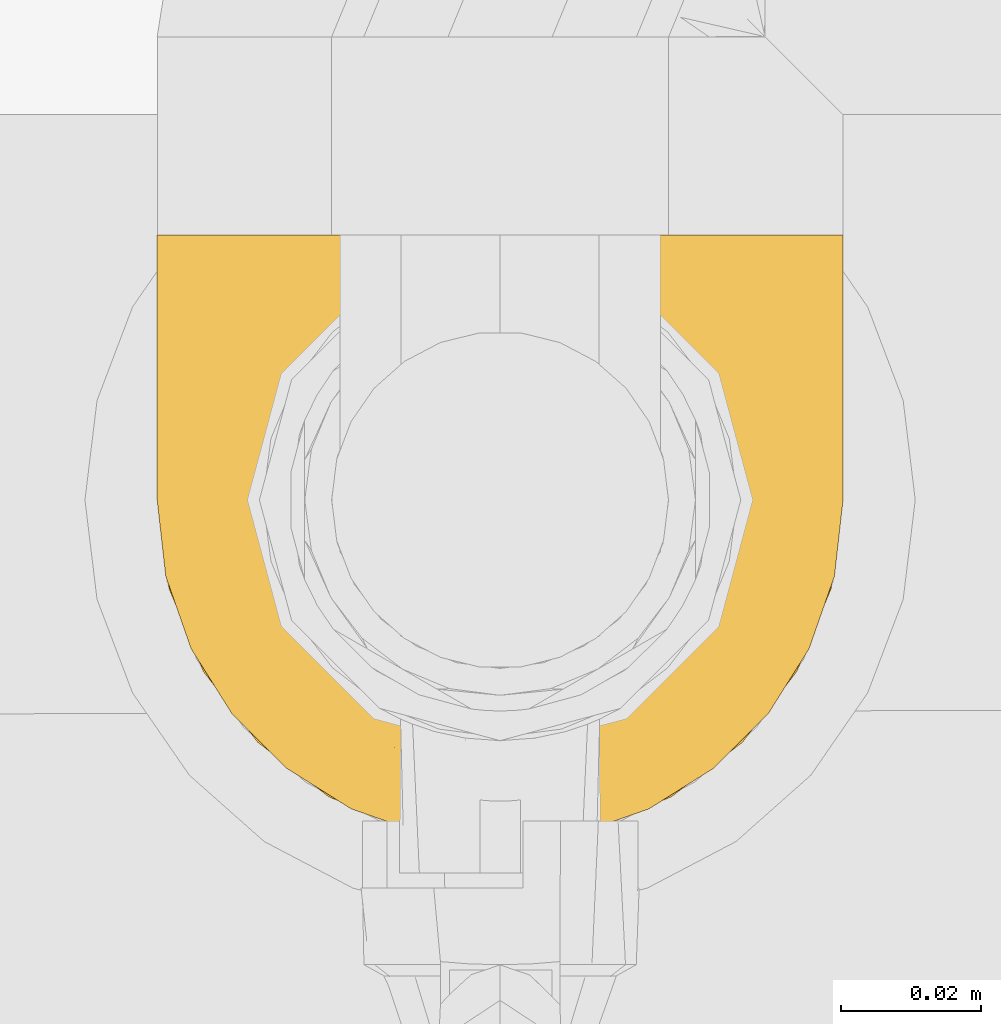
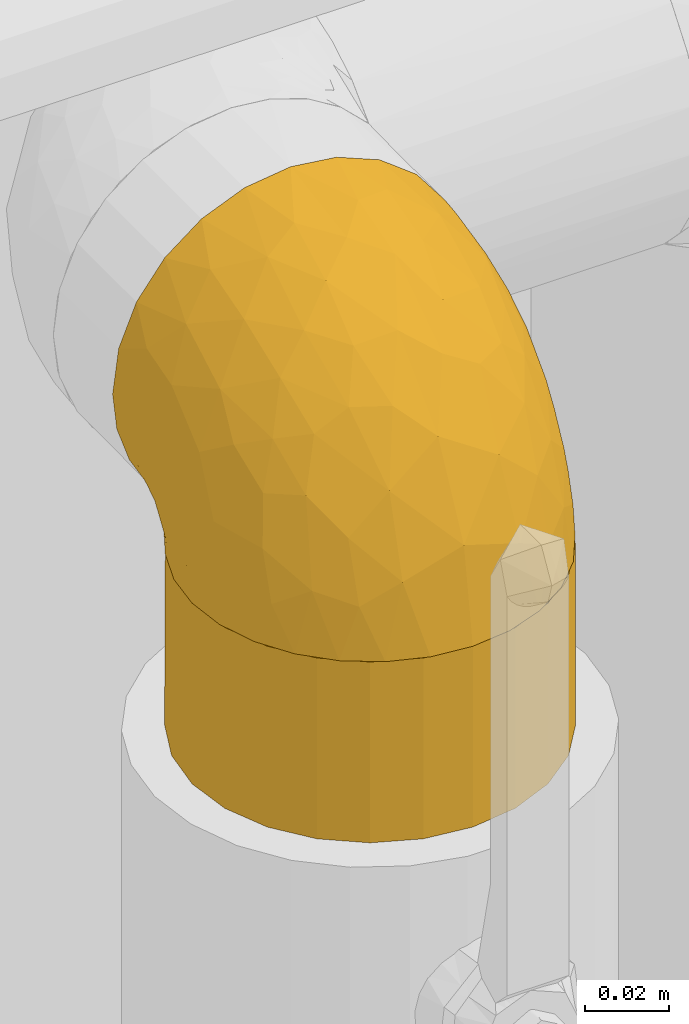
# One storey, part 28 of 94: 2 coverings.
"""IFC2X3 building model written with IfcOpenShell, lengths in millimetres."""

from ifc_helpers import new_model, entity, si_unit, converted_unit, derived_unit, direction, frame, origin, place, context, subcontext, project, spatial, faceted_brep, material, element, save


model = new_model("IFC2X3")

# Units and contexts
model_context = context("Model", 3, precision=0.01, world=origin(), true_north=direction((6.123031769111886e-17, 1.0)))
body_context = subcontext(model_context, "Body", "Model", "MODEL_VIEW")
ifc_project = project(units=[si_unit("LENGTHUNIT", "METRE", prefix="MILLI"), si_unit("AREAUNIT", "SQUARE_METRE"), si_unit("VOLUMEUNIT", "CUBIC_METRE"), converted_unit("PLANEANGLEUNIT", "DEGREE", entity("IfcRatioMeasure", 0.017453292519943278), si_unit("PLANEANGLEUNIT", "RADIAN"), dimensions=[0, 0, 0, 0, 0, 0, 0]), si_unit("MASSUNIT", "GRAM", prefix="KILO"), derived_unit("MASSDENSITYUNIT", [(si_unit("MASSUNIT", "GRAM", prefix="KILO"), 1), (si_unit("LENGTHUNIT", "METRE"), -3)]), derived_unit("IONCONCENTRATIONUNIT", [(si_unit("MASSUNIT", "GRAM", prefix="KILO"), 1), (si_unit("LENGTHUNIT", "METRE"), -3)]), derived_unit("MOMENTOFINERTIAUNIT", [(si_unit("LENGTHUNIT", "METRE"), 4)]), si_unit("TIMEUNIT", "SECOND"), si_unit("FREQUENCYUNIT", "HERTZ"), si_unit("THERMODYNAMICTEMPERATUREUNIT", "DEGREE_CELSIUS"), derived_unit("THERMALTRANSMITTANCEUNIT", [(si_unit("MASSUNIT", "GRAM", prefix="KILO"), 1), (si_unit("THERMODYNAMICTEMPERATUREUNIT", "KELVIN"), -1), (si_unit("TIMEUNIT", "SECOND"), -3)]), derived_unit("THERMALCONDUCTANCEUNIT", [(si_unit("MASSUNIT", "GRAM", prefix="KILO"), 1), (si_unit("THERMODYNAMICTEMPERATUREUNIT", "KELVIN"), -1), (si_unit("TIMEUNIT", "SECOND"), -3), (si_unit("LENGTHUNIT", "METRE"), 1)]), derived_unit("VOLUMETRICFLOWRATEUNIT", [(si_unit("LENGTHUNIT", "METRE"), 3), (si_unit("TIMEUNIT", "SECOND"), -1)]), derived_unit("MASSFLOWRATEUNIT", [(si_unit("MASSUNIT", "GRAM", prefix="KILO"), 1), (si_unit("TIMEUNIT", "SECOND"), -1)]), derived_unit("ROTATIONALFREQUENCYUNIT", [(si_unit("TIMEUNIT", "SECOND"), -1)]), si_unit("ELECTRICCURRENTUNIT", "AMPERE"), si_unit("ELECTRICVOLTAGEUNIT", "VOLT"), si_unit("POWERUNIT", "WATT"), si_unit("FORCEUNIT", "NEWTON", prefix="KILO"), si_unit("ILLUMINANCEUNIT", "LUX"), si_unit("LUMINOUSFLUXUNIT", "LUMEN"), si_unit("LUMINOUSINTENSITYUNIT", "CANDELA"), derived_unit("USERDEFINED", [(si_unit("MASSUNIT", "GRAM", prefix="KILO"), -1), (si_unit("LENGTHUNIT", "METRE"), -2), (si_unit("TIMEUNIT", "SECOND"), 3), (si_unit("LUMINOUSFLUXUNIT", "LUMEN"), 1)]), derived_unit("USERDEFINED", [(si_unit("MASSUNIT", "GRAM", prefix="KILO"), 1), (si_unit("TIMEUNIT", "SECOND"), -3), (si_unit("LENGTHUNIT", "METRE"), 3), (si_unit("ELECTRICCURRENTUNIT", "AMPERE"), -2)]), derived_unit("SOUNDPOWERUNIT", [(si_unit("MASSUNIT", "GRAM", prefix="KILO"), 1), (si_unit("TIMEUNIT", "SECOND"), -3), (si_unit("LENGTHUNIT", "METRE"), 2)]), derived_unit("SOUNDPRESSUREUNIT", [(si_unit("MASSUNIT", "GRAM", prefix="KILO"), 1), (si_unit("LENGTHUNIT", "METRE"), -1), (si_unit("TIMEUNIT", "SECOND"), -2)]), derived_unit("LINEARVELOCITYUNIT", [(si_unit("LENGTHUNIT", "METRE"), 1), (si_unit("TIMEUNIT", "SECOND"), -1)]), si_unit("PRESSUREUNIT", "PASCAL"), derived_unit("USERDEFINED", [(si_unit("MASSUNIT", "GRAM", prefix="KILO"), 1), (si_unit("LENGTHUNIT", "METRE"), -2), (si_unit("TIMEUNIT", "SECOND"), -2)]), derived_unit("LINEARFORCEUNIT", [(si_unit("MASSUNIT", "GRAM", prefix="KILO"), 1), (si_unit("TIMEUNIT", "SECOND"), -2)]), derived_unit("PLANARFORCEUNIT", [(si_unit("MASSUNIT", "GRAM", prefix="KILO"), 1), (si_unit("LENGTHUNIT", "METRE"), -1), (si_unit("TIMEUNIT", "SECOND"), -2)]), derived_unit("SPECIFICHEATCAPACITYUNIT", [(si_unit("THERMODYNAMICTEMPERATUREUNIT", "KELVIN"), -1), (si_unit("LENGTHUNIT", "METRE"), 2), (si_unit("TIMEUNIT", "SECOND"), -2)]), derived_unit("HEATINGVALUEUNIT", [(si_unit("LENGTHUNIT", "METRE"), 2), (si_unit("TIMEUNIT", "SECOND"), -2)]), derived_unit("VAPORPERMEABILITYUNIT", [(si_unit("LENGTHUNIT", "METRE"), -1), (si_unit("TIMEUNIT", "SECOND"), 1)]), derived_unit("DYNAMICVISCOSITYUNIT", [(si_unit("MASSUNIT", "GRAM", prefix="KILO"), 1), (si_unit("TIMEUNIT", "SECOND"), -1), (si_unit("LENGTHUNIT", "METRE"), -1)]), derived_unit("THERMALEXPANSIONCOEFFICIENTUNIT", [(si_unit("THERMODYNAMICTEMPERATUREUNIT", "KELVIN"), -1)]), derived_unit("MODULUSOFELASTICITYUNIT", [(si_unit("MASSUNIT", "GRAM", prefix="KILO"), 1), (si_unit("LENGTHUNIT", "METRE"), -1), (si_unit("TIMEUNIT", "SECOND"), -2)]), derived_unit("ISOTHERMALMOISTURECAPACITYUNIT", [(si_unit("LENGTHUNIT", "METRE"), 3), (si_unit("MASSUNIT", "GRAM", prefix="KILO"), -1)]), derived_unit("MOISTUREDIFFUSIVITYUNIT", [(si_unit("TIMEUNIT", "SECOND"), -1), (si_unit("LENGTHUNIT", "METRE"), 2)])], contexts=[model_context])

# Site, building, storey
site_placement = place(None, origin())
site = spatial("IfcSite", under=ifc_project, at=site_placement, Name="Default", CompositionType="ELEMENT")
building_placement = place(site_placement, origin())
building = spatial("IfcBuilding", under=site, at=building_placement, CompositionType="ELEMENT")
storey_placement = place(building_placement, origin())
storey = spatial("IfcBuildingStorey", under=building, at=storey_placement, Name="Niveau 0", CompositionType="ELEMENT", Elevation=0.0)

# Coverings
ifc_material = material(Name="Isolation - Laine minérale")
covering_1_placement = place(storey_placement, frame((-7222.891137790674, 9871.725273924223, 2210.404727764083)))
element("IfcCovering", 1, at=covering_1_placement, inside=storey, material=ifc_material, Name="Isolation des canalisations:Laine minérale", ObjectType="Isolation des canalisations:Laine minérale", PredefinedType="INSULATION", context=body_context, shape_type="Brep", body=[
    faceted_brep([(95.02415814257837, 29.412134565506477, 1.595272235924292), (89.16631019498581, 20.093252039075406, 1.595272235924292), (81.38263886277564, 12.31254833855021, 1.595272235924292), (72.06354573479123, 6.459227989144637, 1.595272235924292), (61.67593083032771, 2.8261403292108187, 1.595272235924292), (50.74527223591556, 1.5952722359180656, 1.595272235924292), (39.80290363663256, 2.8288129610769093, 1.595272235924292), (29.41213456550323, 6.4663863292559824, 1.595272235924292), (20.093252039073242, 12.324234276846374, 1.595272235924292), (12.31254833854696, 20.10790560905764, 1.595272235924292), (6.459227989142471, 29.42699873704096, 1.595272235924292), (2.826140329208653, 39.81461364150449, 1.595272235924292), (1.5952722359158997, 50.74527223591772, 1.595272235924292), (2.765001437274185, 61.404358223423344, 1.595272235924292), (6.216868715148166, 71.55257335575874, 1.595272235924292), (11.785042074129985, 80.70896636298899, 1.595272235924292), (19.19437336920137, 88.43165280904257, 1.595272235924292), (21.63864226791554, 88.43165280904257, 1.5952722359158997), (23.415694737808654, 88.43165280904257, 1.5952722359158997), (25.192747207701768, 88.43165280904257, 1.5952722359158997), (26.692340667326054, 88.43165280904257, 1.5952722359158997), (28.191934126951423, 88.43165280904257, 1.5952722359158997), (31.191121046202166, 88.43165280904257, 1.5952722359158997), (34.19030796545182, 88.43165280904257, 1.5952722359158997), (37.18949488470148, 88.43165280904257, 1.5952722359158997), (40.18868180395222, 88.43165280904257, 1.5952722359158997), (41.68827526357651, 88.43165280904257, 1.5952722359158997), (43.18786872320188, 88.43165280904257, 1.5952722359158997), (45.63213762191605, 88.43165280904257, 1.5952722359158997), (48.07640652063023, 88.43165280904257, 1.5952722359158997), (50.5206754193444, 88.43165280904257, 1.5952722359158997), (52.96494431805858, 88.43165280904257, 1.5952722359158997), (55.40921321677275, 88.43165280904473, 1.5952722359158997), (57.853482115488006, 88.43165280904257, 1.5952722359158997), (60.2977510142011, 88.43165280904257, 1.5952722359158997), (62.74201991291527, 88.43165280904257, 1.5952722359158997), (65.18628881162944, 88.43165280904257, 1.5952722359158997), (67.6305577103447, 88.43165280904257, 1.5952722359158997), (70.07482660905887, 88.43165280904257, 1.5952722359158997), (72.51909550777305, 88.43165280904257, 1.5952722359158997), (74.96336440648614, 88.43165280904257, 1.5952722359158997), (77.4076333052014, 88.43165280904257, 1.5952722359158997), (79.85190220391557, 88.43165280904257, 1.595272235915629), (82.29617110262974, 88.43165280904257, 1.595272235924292), (89.71827412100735, 80.69235262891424, 1.595272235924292), (95.28368576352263, 71.53113811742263, 1.595272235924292), (98.73008326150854, 61.383900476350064, 1.595272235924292), (99.89527223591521, 50.74527223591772, 1.595272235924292), (98.66173151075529, 39.802903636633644, 1.595272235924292), (11.777056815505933, 88.74527223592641, 9.641963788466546), (6.211862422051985, 88.74527223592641, 18.798688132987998), (2.7632985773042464, 88.74527223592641, 28.94385431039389), (1.5952722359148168, 88.74527223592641, 39.59527223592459), (3.270017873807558, 88.74527223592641, 52.31622830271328), (8.18012363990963, 88.74527223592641, 64.17027223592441), (15.990973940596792, 88.74527223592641, 74.34957053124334), (26.17027223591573, 88.74527223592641, 82.16042083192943), (38.02431616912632, 88.74527223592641, 87.07052659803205), (50.74527223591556, 88.74527223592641, 88.74527223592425), (63.466228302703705, 88.74527223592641, 87.07052659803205), (75.32027223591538, 88.74527223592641, 82.16042083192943), (85.49957053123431, 88.74527223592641, 74.34957053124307), (93.3104208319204, 88.74527223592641, 64.17027223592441), (98.22052659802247, 88.74527223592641, 52.31622830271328), (99.89527223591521, 88.74527223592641, 39.59527223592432), (98.72724589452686, 88.74527223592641, 28.94385431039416), (95.27868204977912, 88.74527223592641, 18.798688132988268), (89.71348765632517, 88.74527223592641, 9.641963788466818), (82.29617110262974, 88.74527223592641, 1.9088916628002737), (79.85190220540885, 88.74527223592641, 1.908891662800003), (78.35230874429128, 88.74527223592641, 1.908891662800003), (76.3803775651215, 88.74527223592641, 1.908891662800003), (74.40844638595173, 88.74527223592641, 1.908891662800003), (72.43651520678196, 88.74527223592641, 1.908891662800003), (70.46458402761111, 88.74527223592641, 1.9088916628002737), (68.49265284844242, 88.74527223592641, 1.908891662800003), (66.52072166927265, 88.74527223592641, 1.908891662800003), (64.54879049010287, 88.74527223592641, 1.908891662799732), (62.5768593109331, 88.74527223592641, 1.9088916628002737), (60.60492813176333, 88.74527223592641, 1.908891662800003), (58.632996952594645, 88.74527223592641, 1.908891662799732), (56.661065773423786, 88.74527223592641, 1.9088916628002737), (54.6891345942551, 88.74527223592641, 1.908891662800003), (52.71720341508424, 88.74527223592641, 1.908891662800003), (50.74527223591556, 88.74527223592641, 1.908891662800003), (48.773341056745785, 88.74527223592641, 1.908891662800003), (46.80140987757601, 88.74527223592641, 1.9088916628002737), (44.82947869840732, 88.74527223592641, 1.9088916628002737), (42.85754751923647, 88.74527223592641, 1.908891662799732), (40.8856163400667, 88.74527223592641, 1.9088916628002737), (38.913685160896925, 88.74527223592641, 1.9088916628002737), (36.94175398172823, 88.74527223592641, 1.9088916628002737), (34.96982280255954, 88.74527223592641, 1.908891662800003), (31.97063588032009, 88.74527223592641, 1.908891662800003), (28.971448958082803, 88.74527223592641, 1.908891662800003), (26.5271800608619, 88.74527223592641, 1.9088916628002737), (24.082911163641, 88.74527223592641, 1.908891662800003), (21.638642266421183, 88.74527223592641, 1.9088916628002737), (19.19437336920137, 88.74527223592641, 1.908891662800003), (53.75333970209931, 88.53090125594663, 1.8241875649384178), (51.832765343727, 88.52210831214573, 1.8156242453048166), (61.47290163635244, 88.52122178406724, 1.8147227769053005), (63.56282540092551, 88.52777998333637, 1.821224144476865), (48.00102702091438, 88.54092532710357, 1.8331787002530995), (77.24999397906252, 88.53506454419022, 1.8280164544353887), (80.69913834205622, 88.49130573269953, 1.7792781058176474), (42.43807145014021, 88.51810292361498, 1.8114926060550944), (22.860776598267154, 88.52350981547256, 1.8170346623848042), (24.70021643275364, 88.52548149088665, 1.8189889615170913), (71.3700895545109, 88.51653277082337, 1.809830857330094), (73.40383885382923, 88.52674320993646, 1.8202215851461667), (44.410002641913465, 88.50469006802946, 1.7964621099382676), (37.92771907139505, 88.52964682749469, 1.8230063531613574), (39.81308540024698, 88.53317608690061, 1.8262968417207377), (35.95578792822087, 88.51585328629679, 1.8091041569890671), (49.75930651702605, 88.52914218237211, 1.8225274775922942), (21.02757498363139, 88.52591800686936, 1.8194169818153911), (55.67510065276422, 88.53664906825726, 1.8294378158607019), (67.50668767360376, 88.53747885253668, 1.83017445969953), (65.61454699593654, 88.53273195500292, 1.8258883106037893), (34.10458092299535, 88.53426299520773, 1.8272900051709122), (57.55217518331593, 88.53370000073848, 1.8267767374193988), (79.10210557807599, 88.52350981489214, 1.8170346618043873), (75.39441218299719, 88.53493173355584, 1.8278964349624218), (82.29617110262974, 88.52350981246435, 1.8170346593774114), (82.29617110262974, 88.4948797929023, 1.747915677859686), (82.29617110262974, 88.46624977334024, 1.67879669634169), (19.19437336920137, 88.52350981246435, 1.8170346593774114), (19.19437336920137, 88.59262879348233, 1.8456646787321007), (19.19437336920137, 88.66174777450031, 1.8742946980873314), (32.212157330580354, 88.5100064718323, 1.8026539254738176), (69.4355922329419, 88.53042484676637, 1.823740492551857), (46.24828797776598, 88.52246762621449, 1.8159875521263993), (59.49061335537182, 88.52470424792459, 1.8182226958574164), (29.41925201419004, 88.50579329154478, 1.7977740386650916), (27.44213716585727, 88.5274414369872, 1.8208977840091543), (82.29617110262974, 88.66174777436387, 1.8742946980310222), (82.29617110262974, 88.59262879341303, 1.8456646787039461), (19.19437336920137, 88.46624977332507, 1.6787966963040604), (19.194373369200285, 88.49487979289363, 1.7479156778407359), (4.210283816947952, 85.22080157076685, 23.495219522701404), (8.744179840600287, 85.93611072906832, 13.747756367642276), (4.210283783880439, 81.07807843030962, 22.409779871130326), (9.955583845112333, 83.13289242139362, 10.562522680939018), (1.5952722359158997, 79.24527223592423, 37.049754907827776), (1.5952722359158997, 81.2889022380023, 37.59734391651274), (1.5952722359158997, 55.83630689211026, 20.59527223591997), (2.93549782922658, 66.39553001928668, 16.020149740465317), (4.213452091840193, 67.94040403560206, 9.261677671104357), (1.5952722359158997, 69.74527223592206, 34.50423757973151), (9.405305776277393, 80.67378389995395, 9.667897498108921), (9.963487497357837, 79.78892094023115, 7.202912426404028), (2.9356418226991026, 74.32109358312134, 23.94474674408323), (4.213452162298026, 66.85470593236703, 5.119390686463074), (8.750654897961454, 76.603363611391, 4.402893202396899), (5.690627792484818, 79.64911936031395, 17.541506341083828), (1.5952722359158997, 52.743200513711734, 9.051642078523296), (1.5952722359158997, 53.29078956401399, 11.095272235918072), (4.482619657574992, 73.61168493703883, 16.7288594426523), (1.5952722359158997, 62.790789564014, 27.549754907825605), (5.766057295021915, 73.87988529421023, 12.071559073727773), (2.6117250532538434, 75.32913676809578, 47.62395095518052), (2.657531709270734, 65.9107418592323, 44.00144112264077), (11.131578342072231, 53.84761415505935, 58.899698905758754), (20.82464790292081, 59.13651173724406, 72.6677148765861), (11.7519547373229, 71.16612245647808, 67.20155656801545), (5.336592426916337, 67.0054527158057, 54.07984229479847), (5.336592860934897, 78.8805128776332, 57.54110754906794), (50.74527223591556, 37.51978749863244, 72.10110329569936), (50.74527223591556, 61.81444117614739, 84.47984763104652), (40.339739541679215, 53.875201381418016, 80.2480135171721), (9.124243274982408, 25.784943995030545, 13.851436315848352), (4.351045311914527, 36.24418276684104, 15.165285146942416), (32.64695426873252, 29.562882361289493, 60.77765845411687), (23.768909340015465, 30.770681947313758, 55.385836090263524), (35.61531809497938, 15.292222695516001, 43.89737524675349), (41.696133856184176, 71.31385843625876, 86.1264811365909), (30.50981773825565, 47.24102741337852, 73.23168363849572), (21.748430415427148, 43.50389303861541, 64.74738573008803), (20.824647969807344, 75.28985257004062, 77.40373146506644), (31.93638275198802, 67.10273039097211, 82.14716981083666), (15.984346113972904, 37.09920094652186, 52.82911549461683), (9.509703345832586, 44.51517687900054, 48.878965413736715), (11.405769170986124, 33.70477633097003, 40.607220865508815), (3.7235321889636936, 44.05169469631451, 28.76995319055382), (9.124242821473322, 30.044081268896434, 27.44844566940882), (15.984347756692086, 18.312338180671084, 19.800365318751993), (50.74527223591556, 5.8606968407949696, 28.52610329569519), (34.50535109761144, 7.04140620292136, 22.71562192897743), (18.535934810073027, 25.61446965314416, 42.31748570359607), (24.588194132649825, 15.886915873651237, 33.6838277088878), (24.588193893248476, 10.600409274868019, 16.806973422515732), (39.07585882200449, 38.50378416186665, 71.0785805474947), (42.346184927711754, 25.345180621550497, 60.332491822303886), (2.5632520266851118, 53.163504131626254, 33.37332146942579), (50.74527223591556, 18.239441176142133, 52.82075697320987), (4.722449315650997, 52.69469876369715, 43.4654296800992), (69.5541610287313, 58.17589226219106, 79.20017463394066), (59.5851078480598, 71.70091272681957, 86.2448880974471), (59.865425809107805, 54.57433327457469, 80.8380701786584), (66.13789702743, 42.49805076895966, 72.52816019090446), (69.55416221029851, 75.06235489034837, 83.8739788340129), (85.49332197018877, 24.5251412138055, 35.798660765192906), (78.98858976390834, 25.786342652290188, 48.02046276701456), (76.88743080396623, 15.878231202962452, 33.68736739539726), (85.49294527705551, 37.08979212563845, 52.83844921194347), (78.28666517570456, 35.71336208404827, 59.755981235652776), (97.13479117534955, 36.23150879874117, 15.170016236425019), (98.95303587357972, 70.53804152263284, 45.55141709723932), (99.89527223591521, 69.74527223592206, 34.50423757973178), (99.89527223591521, 79.24527223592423, 37.049754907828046), (66.97173870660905, 7.0362994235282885, 22.71467774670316), (80.66589652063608, 69.24086116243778, 76.07714087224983), (92.35692696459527, 30.03051209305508, 27.454651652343), (92.35692651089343, 25.770245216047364, 13.854008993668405), (89.73858944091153, 76.87540408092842, 68.47065883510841), (96.15395178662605, 74.00473445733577, 56.4584334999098), (79.62483877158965, 48.41047025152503, 68.08854506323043), (89.7385902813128, 62.62553049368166, 64.29272071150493), (59.508159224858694, 31.220776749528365, 66.01125638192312), (68.8345286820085, 29.560345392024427, 60.7801954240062), (99.01263503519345, 79.82666983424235, 48.01911236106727), (76.887431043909, 10.591274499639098, 16.809109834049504), (65.85652255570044, 15.28724730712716, 43.900853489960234), (85.49294363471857, 18.29950680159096, 19.803681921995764), (97.76388503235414, 44.04987097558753, 28.786726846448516), (99.89527223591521, 55.83630689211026, 20.595272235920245), (98.78930951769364, 54.23536248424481, 35.485066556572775), (99.89527223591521, 62.790789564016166, 27.549754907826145), (99.89527223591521, 52.74320051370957, 9.051642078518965), (99.89527223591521, 53.29078956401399, 11.095272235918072), (91.50386042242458, 48.41211537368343, 53.16291239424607), (96.42683125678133, 64.14304703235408, 52.05308452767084), (93.1499194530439, 40.10640265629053, 41.401037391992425), (99.08337182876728, 62.89073418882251, 40.721221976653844), (86.09107557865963, 47.672778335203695, 60.91677547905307), (96.67816905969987, 55.3895582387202, 45.9406116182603), (97.28026029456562, 81.07807840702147, 22.409778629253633), (95.72662397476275, 78.26566497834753, 16.464254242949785), (98.5546584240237, 74.3207291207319, 23.943292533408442), (97.28026045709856, 85.22080145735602, 23.495218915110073), (92.74636428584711, 85.93611080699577, 13.74775580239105), (91.53641117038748, 83.13257230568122, 10.564867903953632), (90.1127562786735, 82.6819800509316, 7.656624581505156), (97.0051951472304, 73.61706381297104, 16.723481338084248), (91.54965419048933, 79.75777141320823, 7.216517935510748), (97.2842704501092, 67.9184535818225, 9.263185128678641), (97.28427059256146, 66.83334757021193, 5.119593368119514), (92.7514749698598, 76.58449008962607, 4.405878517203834), (98.55441347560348, 66.39770760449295, 16.01862728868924), (95.80583125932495, 72.78382599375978, 10.692146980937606)], [[[0, 1, 2, 3, 4, 5, 6, 7, 8, 9, 10, 11, 12, 13, 14, 15, 16, 17, 18, 19, 20, 21, 22, 23, 24, 25, 26, 27, 28, 29, 30, 31, 32, 33, 34, 35, 36, 37, 38, 39, 40, 41, 42, 43, 44, 45, 46, 47, 48]], [[49, 50, 51, 52, 53, 54, 55, 56, 57, 58, 59, 60, 61, 62, 63, 64, 65, 66, 67, 68, 69, 70, 71, 72, 73, 74, 75, 76, 77, 78, 79, 80, 81, 82, 83, 84, 85, 86, 87, 88, 89, 90, 91, 92, 93, 94, 95, 96, 97, 98]], [[99, 100, 83]], [[101, 102, 35]], [[85, 103, 86]], [[71, 70, 104]], [[105, 69, 68]], [[27, 26, 106]], [[18, 107, 108]], [[109, 73, 110]], [[28, 27, 111]], [[25, 112, 113]], [[108, 96, 95]], [[114, 92, 91]], [[103, 85, 115]], [[96, 107, 97]], [[107, 17, 116]], [[78, 102, 101]], [[99, 117, 32]], [[76, 118, 119]], [[120, 92, 114]], [[112, 90, 113]], [[88, 111, 106]], [[40, 39, 110]], [[107, 96, 108]], [[32, 117, 121]], [[91, 90, 112]], [[37, 119, 118]], [[84, 115, 85]], [[69, 105, 122]], [[71, 123, 72]], [[105, 124, 125, 126, 43]], [[116, 17, 16]], [[122, 70, 69]], [[41, 122, 42]], [[116, 127, 128, 129, 98]], [[110, 123, 40]], [[42, 122, 105]], [[120, 23, 130]], [[24, 114, 112]], [[114, 24, 23]], [[104, 123, 71]], [[91, 112, 114]], [[104, 122, 41]], [[24, 112, 25]], [[110, 72, 123]], [[36, 119, 37]], [[40, 123, 41]], [[74, 73, 109]], [[131, 75, 74]], [[118, 131, 37]], [[109, 110, 39]], [[109, 39, 38]], [[73, 72, 110]], [[123, 104, 41]], [[122, 104, 70]], [[26, 25, 113]], [[113, 89, 106]], [[87, 86, 132]], [[113, 106, 26]], [[76, 75, 118]], [[132, 111, 87]], [[106, 111, 27]], [[132, 28, 111]], [[87, 111, 88]], [[88, 106, 89]], [[113, 90, 89]], [[131, 118, 75]], [[38, 37, 131]], [[119, 36, 102]], [[131, 109, 38]], [[109, 131, 74]], [[78, 77, 102]], [[77, 119, 102]], [[77, 76, 119]], [[121, 80, 133]], [[36, 35, 102]], [[33, 121, 133]], [[79, 78, 101]], [[34, 101, 35]], [[132, 29, 28]], [[80, 79, 133]], [[29, 103, 115]], [[30, 29, 115]], [[86, 103, 132]], [[100, 115, 84]], [[31, 30, 100]], [[115, 100, 30]], [[32, 31, 99]], [[117, 81, 121]], [[100, 84, 83]], [[99, 82, 117]], [[81, 117, 82]], [[33, 32, 121]], [[82, 99, 83]], [[100, 99, 31]], [[34, 33, 133]], [[121, 81, 80]], [[133, 101, 34]], [[101, 133, 79]], [[134, 94, 93]], [[23, 120, 114]], [[132, 103, 29]], [[120, 93, 92]], [[93, 120, 130]], [[97, 107, 116]], [[108, 20, 19, 18]], [[21, 135, 134]], [[20, 135, 21]], [[134, 135, 94]], [[108, 95, 135]], [[108, 135, 20]], [[135, 95, 94]], [[134, 22, 21]], [[130, 22, 134]], [[42, 105, 43]], [[105, 68, 136, 137, 124]], [[97, 116, 98]], [[116, 16, 138, 139, 127]], [[18, 17, 107]], [[93, 130, 134]], [[22, 130, 23]], [[140, 141, 142]], [[143, 129, 128, 127]], [[51, 144, 145, 52]], [[146, 147, 148]], [[142, 149, 144]], [[150, 127, 151]], [[50, 140, 51]], [[142, 152, 149]], [[51, 140, 144]], [[129, 143, 141]], [[14, 13, 153]], [[148, 151, 154]], [[155, 141, 143]], [[151, 138, 154]], [[14, 153, 154]], [[16, 15, 138]], [[13, 12, 156, 157]], [[152, 155, 158]], [[159, 158, 147]], [[157, 148, 153]], [[14, 154, 15]], [[49, 98, 129]], [[49, 129, 141]], [[141, 50, 49]], [[160, 148, 147]], [[146, 148, 157]], [[138, 15, 154]], [[150, 158, 155]], [[151, 127, 139, 138]], [[141, 140, 50]], [[144, 140, 142]], [[157, 153, 13]], [[154, 153, 148]], [[149, 152, 159]], [[160, 147, 158]], [[147, 146, 159]], [[155, 152, 142]], [[159, 152, 158]], [[127, 150, 143]], [[160, 150, 151]], [[150, 160, 158]], [[148, 160, 151]], [[141, 155, 142]], [[155, 143, 150]], [[156, 12, 11]], [[161, 149, 162]], [[163, 164, 165]], [[166, 167, 161]], [[168, 169, 170]], [[54, 165, 55]], [[171, 172, 10]], [[173, 174, 175]], [[57, 176, 58]], [[173, 177, 178]], [[179, 56, 55]], [[54, 167, 165]], [[170, 180, 177]], [[56, 179, 180]], [[167, 54, 53]], [[181, 182, 183]], [[184, 146, 172]], [[172, 185, 184]], [[186, 185, 171]], [[186, 9, 8]], [[172, 146, 157, 156]], [[172, 11, 10]], [[173, 178, 174]], [[6, 187, 188]], [[189, 186, 190]], [[191, 186, 8]], [[175, 190, 188]], [[168, 192, 193]], [[189, 190, 174]], [[56, 180, 57]], [[8, 7, 191]], [[188, 7, 6]], [[6, 5, 187]], [[190, 191, 188]], [[159, 194, 162]], [[175, 187, 195]], [[177, 180, 164]], [[10, 9, 171]], [[176, 180, 170]], [[156, 11, 172]], [[163, 165, 166]], [[179, 165, 164]], [[53, 52, 145]], [[185, 189, 183]], [[184, 196, 194]], [[188, 191, 7]], [[186, 191, 190]], [[186, 171, 9]], [[172, 171, 185]], [[187, 175, 188]], [[193, 175, 195]], [[196, 163, 166]], [[163, 181, 178]], [[162, 166, 161]], [[184, 185, 183]], [[178, 177, 164]], [[177, 192, 170]], [[177, 173, 192]], [[176, 170, 169]], [[58, 176, 169]], [[57, 180, 176]], [[193, 192, 173]], [[168, 170, 192]], [[175, 193, 173]], [[168, 193, 195]], [[163, 178, 164]], [[184, 194, 146]], [[178, 181, 174]], [[189, 174, 181]], [[175, 174, 190]], [[183, 189, 181]], [[186, 189, 185]], [[182, 181, 163]], [[183, 182, 184]], [[163, 196, 182]], [[184, 182, 196]], [[165, 179, 55]], [[180, 179, 164]], [[161, 53, 145]], [[165, 167, 166]], [[53, 161, 167]], [[161, 145, 144, 149]], [[159, 162, 149]], [[196, 166, 162]], [[162, 194, 196]], [[146, 194, 159]], [[197, 198, 199]], [[58, 169, 198]], [[197, 199, 200]], [[198, 197, 201]], [[202, 203, 204]], [[60, 59, 201]], [[205, 206, 203]], [[0, 48, 207]], [[208, 209, 210]], [[187, 4, 211]], [[201, 212, 60]], [[213, 214, 207]], [[61, 215, 62]], [[62, 215, 216]], [[3, 211, 4]], [[217, 218, 212]], [[219, 220, 200]], [[216, 208, 221]], [[3, 2, 222]], [[62, 216, 63]], [[61, 60, 212]], [[211, 3, 222]], [[5, 4, 187]], [[217, 197, 200]], [[203, 223, 204]], [[2, 1, 224]], [[225, 213, 207]], [[204, 222, 224]], [[1, 0, 214]], [[204, 224, 202]], [[207, 226, 225]], [[227, 226, 228]], [[223, 211, 204]], [[214, 224, 1]], [[202, 224, 213]], [[48, 47, 229]], [[207, 229, 230, 226]], [[211, 223, 187]], [[218, 231, 232]], [[48, 229, 207]], [[205, 233, 231]], [[233, 213, 225]], [[217, 212, 197]], [[215, 212, 218]], [[228, 234, 227]], [[233, 205, 202]], [[208, 234, 209]], [[63, 221, 64]], [[235, 205, 231]], [[207, 214, 0]], [[224, 214, 213]], [[224, 222, 2]], [[211, 222, 204]], [[219, 223, 220]], [[187, 223, 195]], [[227, 233, 225]], [[234, 228, 209]], [[231, 233, 236]], [[221, 208, 210]], [[232, 208, 216]], [[64, 221, 210]], [[216, 221, 63]], [[233, 202, 213]], [[203, 202, 205]], [[205, 235, 206]], [[223, 203, 220]], [[200, 206, 217]], [[220, 203, 206]], [[232, 231, 236]], [[235, 218, 217]], [[212, 215, 61]], [[216, 215, 218]], [[218, 232, 216]], [[234, 232, 236]], [[232, 234, 208]], [[234, 236, 227]], [[233, 227, 236]], [[226, 227, 225]], [[198, 201, 59]], [[212, 201, 197]], [[58, 198, 59]], [[198, 169, 199]], [[169, 168, 199]], [[219, 200, 199]], [[219, 199, 168]], [[200, 220, 206]], [[168, 195, 219]], [[223, 219, 195]], [[218, 235, 231]], [[206, 235, 217]], [[65, 64, 210]], [[209, 237, 210]], [[238, 237, 239]], [[66, 240, 241]], [[242, 136, 241]], [[243, 137, 242]], [[243, 244, 245]], [[65, 240, 66]], [[136, 68, 67]], [[136, 67, 241]], [[246, 226, 230]], [[66, 241, 67]], [[210, 237, 240]], [[45, 247, 46]], [[209, 239, 237]], [[246, 247, 248]], [[46, 247, 230]], [[249, 250, 244]], [[239, 228, 244]], [[226, 246, 249]], [[250, 248, 245]], [[44, 43, 126]], [[237, 242, 241]], [[248, 45, 44]], [[44, 126, 248]], [[46, 230, 229, 47]], [[245, 126, 125]], [[126, 245, 248]], [[243, 124, 137]], [[210, 240, 65]], [[241, 240, 237]], [[248, 247, 45]], [[230, 247, 246]], [[226, 249, 228]], [[238, 239, 244]], [[239, 209, 228]], [[250, 249, 246]], [[228, 249, 244]], [[243, 242, 238]], [[136, 242, 137]], [[124, 243, 125]], [[125, 243, 245]], [[243, 238, 244]], [[237, 238, 242]], [[248, 250, 246]], [[244, 250, 245]]]),
])
covering_2_placement = place(storey_placement, frame((-7222.871137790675, 9871.745273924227, 2213.59527223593)))
element("IfcCovering", 2, at=covering_2_placement, inside=storey, material=ifc_material, Name="Isolation des canalisations:Laine minérale", ObjectType="Isolation des canalisations:Laine minérale", PredefinedType="INSULATION", context=body_context, shape_type="Brep", body=[
    faceted_brep([(93.2731003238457, 26.160272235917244, -1.595272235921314), (98.18120808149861, 38.00949255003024, -1.5952722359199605), (99.85527223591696, 50.72527223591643, -1.595272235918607), (98.65694811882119, 61.51004608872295, -1.5952722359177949), (95.12737949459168, 71.75405657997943, -1.5952722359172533), (89.43799982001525, 80.975588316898, -1.5952722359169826), (81.86619226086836, 88.72527223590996, -1.5952722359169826), (19.58435221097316, 88.72527223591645, -1.5952722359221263), (12.012544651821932, 80.9755883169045, -1.5952722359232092), (6.323164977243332, 71.75405657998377, -1.5952722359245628), (2.793596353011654, 61.51004608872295, -1.5952722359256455), (1.5952722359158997, 50.72527223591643, -1.5952722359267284), (3.26933639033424, 38.00949255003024, -1.5952722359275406), (8.17744414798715, 26.160272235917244, -1.595272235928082), (15.985116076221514, 15.98511607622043, -1.5952722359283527), (26.160272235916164, 8.17744414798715, -1.595272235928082), (38.00949255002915, 3.26933639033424, -1.5952722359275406), (50.72527223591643, 1.5952722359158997, -1.5952722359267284), (63.4410519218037, 3.26933639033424, -1.5952722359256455), (75.29027223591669, 8.17744414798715, -1.595272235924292), (85.46542839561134, 15.98511607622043, -1.5952722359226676), (98.18120808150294, 63.441051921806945, -54.377793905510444), (99.85527223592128, 50.725272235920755, -54.377793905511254), (98.18120808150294, 38.009492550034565, -54.37779390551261), (93.27310032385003, 26.16027223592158, -54.37779390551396), (85.46542839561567, 15.985116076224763, -54.37779390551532), (75.29027223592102, 8.17744414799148, -54.37779390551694), (63.44105192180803, 3.2693363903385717, -54.377793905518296), (50.725272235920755, 1.5952722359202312, -54.377793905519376), (38.009492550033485, 3.2693363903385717, -54.37779390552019), (26.160272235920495, 8.17744414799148, -54.37779390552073), (15.985116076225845, 15.985116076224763, -54.377793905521), (8.17744414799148, 26.16027223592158, -54.37779390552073), (3.2693363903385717, 38.009492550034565, -54.37779390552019), (1.5952722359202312, 50.725272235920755, -54.377793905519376), (3.2693363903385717, 63.441051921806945, -54.377793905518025), (8.17744414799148, 75.29027223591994, -54.37779390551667), (15.985116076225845, 85.46542839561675, -54.37779390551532), (26.160272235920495, 93.27310032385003, -54.37779390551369), (38.009492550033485, 98.18120808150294, -54.37779390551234), (50.725272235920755, 99.85527223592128, -54.377793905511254), (63.44105192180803, 98.18120808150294, -54.377793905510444), (75.29027223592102, 93.27310032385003, -54.377793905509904), (85.46542839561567, 85.46542839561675, -54.377793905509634), (93.27310032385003, 75.29027223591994, -54.377793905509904), (67.26033951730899, 96.98917230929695, -9.859172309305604), (59.11608534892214, 99.1334446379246, -12.003444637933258), (50.72527223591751, 99.85527223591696, -12.725272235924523), (74.9187207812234, 93.48546338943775, -6.355463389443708), (42.33445912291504, 99.13344463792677, -12.0034446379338), (34.19020495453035, 96.98917230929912, -9.859172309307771), (26.531823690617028, 93.48546338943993, -6.355463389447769)], [[[0, 1, 2, 3, 4, 5, 6, 7, 8, 9, 10, 11, 12, 13, 14, 15, 16, 17, 18, 19, 20]], [[21, 22, 23, 24, 25, 26, 27, 28, 29, 30, 31, 32, 33, 34, 35, 36, 37, 38, 39, 40, 41, 42, 43, 44]], [[3, 22, 21]], [[44, 43, 5]], [[4, 21, 44]], [[2, 22, 3]], [[4, 3, 21]], [[5, 4, 44]], [[43, 6, 5]], [[45, 42, 41]], [[41, 40, 46]], [[47, 46, 40]], [[48, 6, 42]], [[46, 45, 41]], [[48, 42, 45]], [[42, 6, 43]], [[49, 47, 40]], [[49, 40, 39]], [[50, 39, 38]], [[50, 49, 39]], [[7, 51, 38]], [[50, 38, 51]], [[38, 37, 7]], [[8, 37, 36]], [[9, 36, 35]], [[10, 35, 34]], [[8, 36, 9]], [[9, 35, 10]], [[34, 11, 10]], [[37, 8, 7]], [[33, 32, 13, 12]], [[34, 33, 12, 11]], [[32, 31, 14, 13]], [[16, 15, 30, 29]], [[17, 16, 29, 28]], [[31, 30, 15, 14]], [[18, 17, 28, 27]], [[19, 18, 27, 26]], [[26, 25, 20, 19]], [[1, 0, 24, 23]], [[2, 1, 23, 22]], [[25, 24, 0, 20]], [[45, 46, 47, 49, 50, 51, 7, 6, 48]]]),
])

save(model, "model.ifc")
